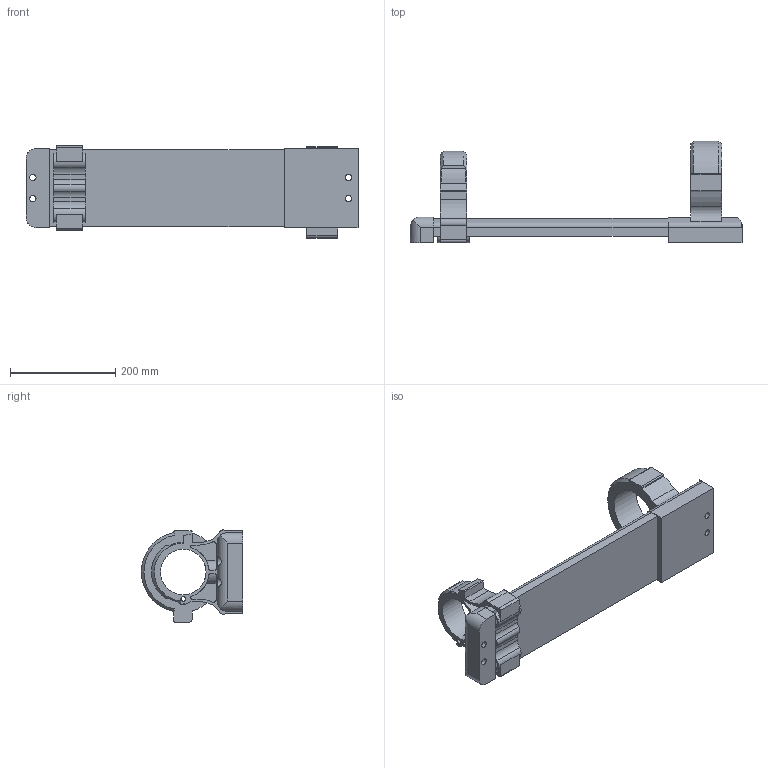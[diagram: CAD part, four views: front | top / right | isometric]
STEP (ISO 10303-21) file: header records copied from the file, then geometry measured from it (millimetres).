
FILE_DESCRIPTION( ( 'STEP AP214' ), '1' );
FILE_NAME( 'e:/temp/worker_42/temp/exporttempdir_1156_492_n2v6r/format_0/ROBOWAY.stp', '2021-05-04T07:40:03', ( 'License CC BY-ND 4.0' ), ( 'CADENAS' ), ' ', 'PARTsolutions', ' ' );
FILE_SCHEMA( ( 'AUTOMOTIVE_DESIGN { 1 0 10303 214 1 1 1 1 }' ) );
Length unit declared in the file: millimetre
Products named in the file (5): 43631711 RW-70 350L; _RWM-70; _RWR-70; _ST-RAIL 70-350; _RWF-70
Assembly tree (6 placements, depth 2):
  43631711 RW-70 350L
    _RWM-70
    _RWR-70
    _ST-RAIL 70-350  x2
    _RWF-70  x2
Bounding box: 630 x 192.3 x 174.98 mm (x, y, z)
Volume: 8037209.1 mm3; surface area: 728419 mm2
Topology: 6 solids, 6 shells, 260 faces, 729 edges, 487 vertices
Faces by surface type: cylinder 129, plane 125, cone 6
Full cylindrical faces by diameter (mm): 9 x1, 12 x6, 17 x1, 18 x6, 24 x2, 35 x1, 86.4 x1, 109 x2
Entity records: 8752 total; most frequent: CARTESIAN_POINT 1722, DIRECTION 1136, ORIENTED_EDGE 1092, EDGE_CURVE 546, AXIS2_PLACEMENT_3D 410, VERTEX_POINT 374, LINE 316, VECTOR 316
